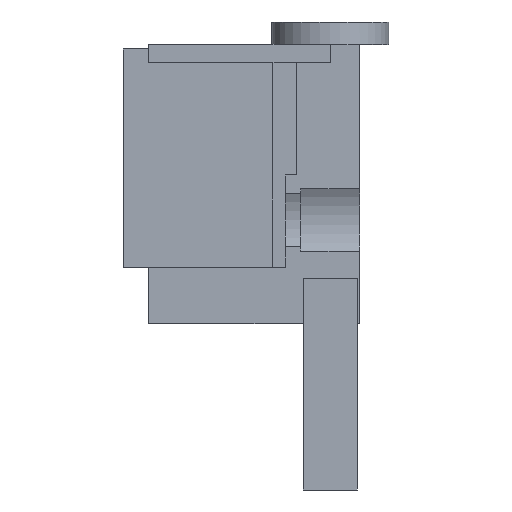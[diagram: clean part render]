
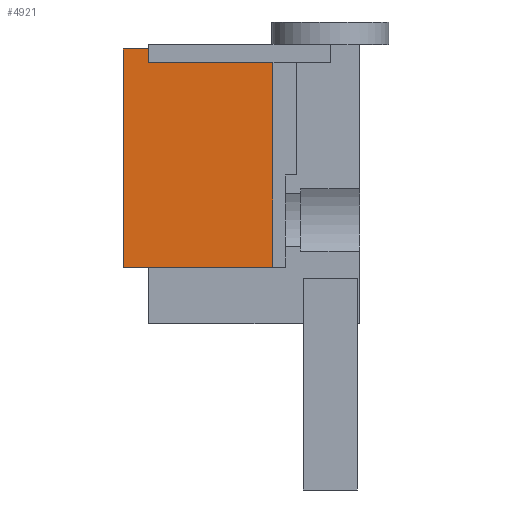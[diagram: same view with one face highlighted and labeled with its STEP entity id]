
A CAD part, left-side view. The second image highlights one B-rep face of the part: STEP entity #4921.
In plain terms, the highlighted planar face has unit normal (-1, 0, 0).
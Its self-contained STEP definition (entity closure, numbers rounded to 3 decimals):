
#1069 = PLANE('',#1070);
#1070 = AXIS2_PLACEMENT_3D('',#1071,#1072,#1073);
#1071 = CARTESIAN_POINT('',(-22.,0.,-9.));
#1072 = DIRECTION('',(0.,0.,1.));
#1073 = DIRECTION('',(1.,0.,0.));
#1205 = VERTEX_POINT('',#1206);
#1206 = CARTESIAN_POINT('',(-21.2,40.4,-9.));
#1220 = PLANE('',#1221);
#1221 = AXIS2_PLACEMENT_3D('',#1222,#1223,#1224);
#1222 = CARTESIAN_POINT('',(5.,40.4,-67.));
#1223 = DIRECTION('',(0.,1.,0.));
#1224 = DIRECTION('',(0.,0.,1.));
#1329 = VERTEX_POINT('',#1330);
#1330 = CARTESIAN_POINT('',(-21.2,12.8,-9.));
#1343 = PLANE('',#1344);
#1344 = AXIS2_PLACEMENT_3D('',#1345,#1346,#1347);
#1345 = CARTESIAN_POINT('',(9.2,12.8,-54.5));
#1346 = DIRECTION('',(0.,-1.,0.));
#1347 = DIRECTION('',(0.,0.,1.));
#1354 = EDGE_CURVE('',#1329,#1205,#1355,.T.);
#1355 = SURFACE_CURVE('',#1356,(#1360,#1366),.PCURVE_S1.);
#1356 = LINE('',#1357,#1358);
#1357 = CARTESIAN_POINT('',(-21.2,23.,-9.));
#1358 = VECTOR('',#1359,1.);
#1359 = DIRECTION('',(0.,1.,-0.));
#1360 = PCURVE('',#1069,#1361);
#1361 = DEFINITIONAL_REPRESENTATION('',(#1362),#1365);
#1362 = B_SPLINE_CURVE_WITH_KNOTS('',1,(#1363,#1364),.UNSPECIFIED.,.F.,
  .F.,(2,2),(-10.2,17.4),.PIECEWISE_BEZIER_KNOTS.);
#1363 = CARTESIAN_POINT('',(0.8,12.8));
#1364 = CARTESIAN_POINT('',(0.8,40.4));
#1365 = ( GEOMETRIC_REPRESENTATION_CONTEXT(2) 
PARAMETRIC_REPRESENTATION_CONTEXT() REPRESENTATION_CONTEXT('2D SPACE',''
  ) );
#1366 = PCURVE('',#1367,#1372);
#1367 = PLANE('',#1368);
#1368 = AXIS2_PLACEMENT_3D('',#1369,#1370,#1371);
#1369 = CARTESIAN_POINT('',(-21.2,46.,-54.5));
#1370 = DIRECTION('',(-1.,0.,0.));
#1371 = DIRECTION('',(0.,-1.,0.));
#1372 = DEFINITIONAL_REPRESENTATION('',(#1373),#1376);
#1373 = B_SPLINE_CURVE_WITH_KNOTS('',1,(#1374,#1375),.UNSPECIFIED.,.F.,
  .F.,(2,2),(-10.2,17.4),.PIECEWISE_BEZIER_KNOTS.);
#1374 = CARTESIAN_POINT('',(33.2,45.5));
#1375 = CARTESIAN_POINT('',(5.6,45.5));
#1376 = ( GEOMETRIC_REPRESENTATION_CONTEXT(2) 
PARAMETRIC_REPRESENTATION_CONTEXT() REPRESENTATION_CONTEXT('2D SPACE',''
  ) );
#1532 = PLANE('',#1533);
#1533 = AXIS2_PLACEMENT_3D('',#1534,#1535,#1536);
#1534 = CARTESIAN_POINT('',(9.2,46.,-54.5));
#1535 = DIRECTION('',(0.,0.,1.));
#1536 = DIRECTION('',(0.,-1.,0.));
#1571 = VERTEX_POINT('',#1572);
#1572 = CARTESIAN_POINT('',(-21.2,40.4,-6.));
#1586 = PLANE('',#1587);
#1587 = AXIS2_PLACEMENT_3D('',#1588,#1589,#1590);
#1588 = CARTESIAN_POINT('',(9.2,46.,-6.));
#1589 = DIRECTION('',(0.,0.,1.));
#1590 = DIRECTION('',(0.,-1.,0.));
#1598 = EDGE_CURVE('',#1571,#1205,#1599,.T.);
#1599 = SURFACE_CURVE('',#1600,(#1604,#1611),.PCURVE_S1.);
#1600 = LINE('',#1601,#1602);
#1601 = CARTESIAN_POINT('',(-21.2,40.4,-31.75));
#1602 = VECTOR('',#1603,1.);
#1603 = DIRECTION('',(0.,0.,-1.));
#1604 = PCURVE('',#1220,#1605);
#1605 = DEFINITIONAL_REPRESENTATION('',(#1606),#1610);
#1606 = LINE('',#1607,#1608);
#1607 = CARTESIAN_POINT('',(35.25,-26.2));
#1608 = VECTOR('',#1609,1.);
#1609 = DIRECTION('',(-1.,0.));
#1610 = ( GEOMETRIC_REPRESENTATION_CONTEXT(2) 
PARAMETRIC_REPRESENTATION_CONTEXT() REPRESENTATION_CONTEXT('2D SPACE',''
  ) );
#1611 = PCURVE('',#1367,#1612);
#1612 = DEFINITIONAL_REPRESENTATION('',(#1613),#1616);
#1613 = B_SPLINE_CURVE_WITH_KNOTS('',1,(#1614,#1615),.UNSPECIFIED.,.F.,
  .F.,(2,2),(-25.75,-22.75),.PIECEWISE_BEZIER_KNOTS.);
#1614 = CARTESIAN_POINT('',(5.6,48.5));
#1615 = CARTESIAN_POINT('',(5.6,45.5));
#1616 = ( GEOMETRIC_REPRESENTATION_CONTEXT(2) 
PARAMETRIC_REPRESENTATION_CONTEXT() REPRESENTATION_CONTEXT('2D SPACE',''
  ) );
#2516 = VERTEX_POINT('',#2517);
#2517 = CARTESIAN_POINT('',(-21.2,46.,-54.5));
#2531 = PLANE('',#2532);
#2532 = AXIS2_PLACEMENT_3D('',#2533,#2534,#2535);
#2533 = CARTESIAN_POINT('',(9.2,46.,-54.5));
#2534 = DIRECTION('',(0.,-1.,0.));
#2535 = DIRECTION('',(0.,0.,1.));
#2543 = EDGE_CURVE('',#2516,#2544,#2546,.T.);
#2544 = VERTEX_POINT('',#2545);
#2545 = CARTESIAN_POINT('',(-21.2,12.8,-54.5));
#2546 = SURFACE_CURVE('',#2547,(#2551,#2558),.PCURVE_S1.);
#2547 = LINE('',#2548,#2549);
#2548 = CARTESIAN_POINT('',(-21.2,46.,-54.5));
#2549 = VECTOR('',#2550,1.);
#2550 = DIRECTION('',(0.,-1.,0.));
#2551 = PCURVE('',#1532,#2552);
#2552 = DEFINITIONAL_REPRESENTATION('',(#2553),#2557);
#2553 = LINE('',#2554,#2555);
#2554 = CARTESIAN_POINT('',(0.,-30.4));
#2555 = VECTOR('',#2556,1.);
#2556 = DIRECTION('',(1.,0.));
#2557 = ( GEOMETRIC_REPRESENTATION_CONTEXT(2) 
PARAMETRIC_REPRESENTATION_CONTEXT() REPRESENTATION_CONTEXT('2D SPACE',''
  ) );
#2558 = PCURVE('',#1367,#2559);
#2559 = DEFINITIONAL_REPRESENTATION('',(#2560),#2564);
#2560 = LINE('',#2561,#2562);
#2561 = CARTESIAN_POINT('',(0.,0.));
#2562 = VECTOR('',#2563,1.);
#2563 = DIRECTION('',(1.,0.));
#2564 = ( GEOMETRIC_REPRESENTATION_CONTEXT(2) 
PARAMETRIC_REPRESENTATION_CONTEXT() REPRESENTATION_CONTEXT('2D SPACE',''
  ) );
#2689 = VERTEX_POINT('',#2690);
#2690 = CARTESIAN_POINT('',(-21.2,46.,-6.));
#2711 = EDGE_CURVE('',#2516,#2689,#2712,.T.);
#2712 = SURFACE_CURVE('',#2713,(#2717,#2724),.PCURVE_S1.);
#2713 = LINE('',#2714,#2715);
#2714 = CARTESIAN_POINT('',(-21.2,46.,-54.5));
#2715 = VECTOR('',#2716,1.);
#2716 = DIRECTION('',(0.,0.,1.));
#2717 = PCURVE('',#2531,#2718);
#2718 = DEFINITIONAL_REPRESENTATION('',(#2719),#2723);
#2719 = LINE('',#2720,#2721);
#2720 = CARTESIAN_POINT('',(0.,30.4));
#2721 = VECTOR('',#2722,1.);
#2722 = DIRECTION('',(1.,0.));
#2723 = ( GEOMETRIC_REPRESENTATION_CONTEXT(2) 
PARAMETRIC_REPRESENTATION_CONTEXT() REPRESENTATION_CONTEXT('2D SPACE',''
  ) );
#2724 = PCURVE('',#1367,#2725);
#2725 = DEFINITIONAL_REPRESENTATION('',(#2726),#2730);
#2726 = LINE('',#2727,#2728);
#2727 = CARTESIAN_POINT('',(0.,0.));
#2728 = VECTOR('',#2729,1.);
#2729 = DIRECTION('',(0.,1.));
#2730 = ( GEOMETRIC_REPRESENTATION_CONTEXT(2) 
PARAMETRIC_REPRESENTATION_CONTEXT() REPRESENTATION_CONTEXT('2D SPACE',''
  ) );
#4256 = EDGE_CURVE('',#2544,#1329,#4257,.T.);
#4257 = SURFACE_CURVE('',#4258,(#4262,#4269),.PCURVE_S1.);
#4258 = LINE('',#4259,#4260);
#4259 = CARTESIAN_POINT('',(-21.2,12.8,-54.5));
#4260 = VECTOR('',#4261,1.);
#4261 = DIRECTION('',(0.,0.,1.));
#4262 = PCURVE('',#1343,#4263);
#4263 = DEFINITIONAL_REPRESENTATION('',(#4264),#4268);
#4264 = LINE('',#4265,#4266);
#4265 = CARTESIAN_POINT('',(0.,30.4));
#4266 = VECTOR('',#4267,1.);
#4267 = DIRECTION('',(1.,0.));
#4268 = ( GEOMETRIC_REPRESENTATION_CONTEXT(2) 
PARAMETRIC_REPRESENTATION_CONTEXT() REPRESENTATION_CONTEXT('2D SPACE',''
  ) );
#4269 = PCURVE('',#1367,#4270);
#4270 = DEFINITIONAL_REPRESENTATION('',(#4271),#4275);
#4271 = LINE('',#4272,#4273);
#4272 = CARTESIAN_POINT('',(33.2,0.));
#4273 = VECTOR('',#4274,1.);
#4274 = DIRECTION('',(0.,1.));
#4275 = ( GEOMETRIC_REPRESENTATION_CONTEXT(2) 
PARAMETRIC_REPRESENTATION_CONTEXT() REPRESENTATION_CONTEXT('2D SPACE',''
  ) );
#4901 = EDGE_CURVE('',#2689,#1571,#4902,.T.);
#4902 = SURFACE_CURVE('',#4903,(#4907,#4914),.PCURVE_S1.);
#4903 = LINE('',#4904,#4905);
#4904 = CARTESIAN_POINT('',(-21.2,46.,-6.));
#4905 = VECTOR('',#4906,1.);
#4906 = DIRECTION('',(0.,-1.,0.));
#4907 = PCURVE('',#1586,#4908);
#4908 = DEFINITIONAL_REPRESENTATION('',(#4909),#4913);
#4909 = LINE('',#4910,#4911);
#4910 = CARTESIAN_POINT('',(0.,-30.4));
#4911 = VECTOR('',#4912,1.);
#4912 = DIRECTION('',(1.,0.));
#4913 = ( GEOMETRIC_REPRESENTATION_CONTEXT(2) 
PARAMETRIC_REPRESENTATION_CONTEXT() REPRESENTATION_CONTEXT('2D SPACE',''
  ) );
#4914 = PCURVE('',#1367,#4915);
#4915 = DEFINITIONAL_REPRESENTATION('',(#4916),#4920);
#4916 = LINE('',#4917,#4918);
#4917 = CARTESIAN_POINT('',(0.,48.5));
#4918 = VECTOR('',#4919,1.);
#4919 = DIRECTION('',(1.,0.));
#4920 = ( GEOMETRIC_REPRESENTATION_CONTEXT(2) 
PARAMETRIC_REPRESENTATION_CONTEXT() REPRESENTATION_CONTEXT('2D SPACE',''
  ) );
#4921 = ADVANCED_FACE('',(#4922),#1367,.T.);
#4922 = FACE_BOUND('',#4923,.T.);
#4923 = EDGE_LOOP('',(#4924,#4925,#4926,#4927,#4928,#4929));
#4924 = ORIENTED_EDGE('',*,*,#4901,.F.);
#4925 = ORIENTED_EDGE('',*,*,#2711,.F.);
#4926 = ORIENTED_EDGE('',*,*,#2543,.T.);
#4927 = ORIENTED_EDGE('',*,*,#4256,.T.);
#4928 = ORIENTED_EDGE('',*,*,#1354,.T.);
#4929 = ORIENTED_EDGE('',*,*,#1598,.F.);
